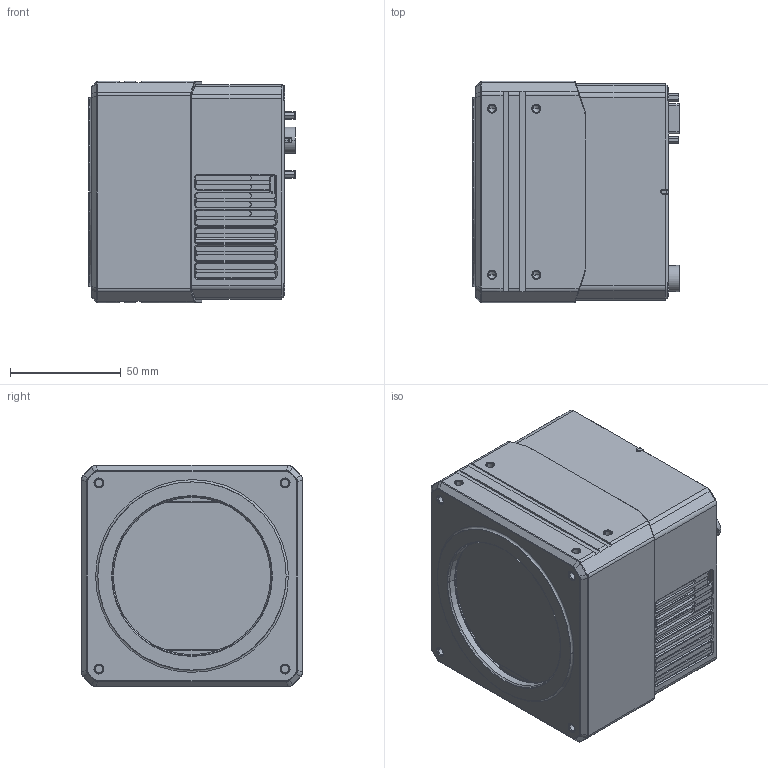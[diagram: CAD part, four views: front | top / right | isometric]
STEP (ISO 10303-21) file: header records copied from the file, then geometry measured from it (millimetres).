
FILE_DESCRIPTION((''),'2;1');
FILE_NAME('A1_ASM','2020-12-07T14:41:13',('wangyijun6'),(''),'CREO PARAMETRIC BY PTC INC, 2017260','CREO PARAMETRIC BY PTC INC, 2017260','');
FILE_SCHEMA(('CONFIG_CONTROL_DESIGN'));
Length unit declared in the file: millimetre
Products named in the file (1): A1_ASM
Bounding box: 93.25 x 100 x 100 mm (x, y, z)
Volume: 826397.8 mm3; surface area: 64383.6 mm2
Topology: 1 solids, 58 shells, 1805 faces, 4768 edges, 3044 vertices
Faces by surface type: plane 988, cylinder 511, cone 236, bspline 32, torus 30, extrusion 8
Entity records: 57448 total; most frequent: CARTESIAN_POINT 12846, ORIENTED_EDGE 9272, DIRECTION 9174, EDGE_CURVE 4736, AXIS2_PLACEMENT_3D 3112, VERTEX_POINT 3044, VECTOR 2950, LINE 2942
